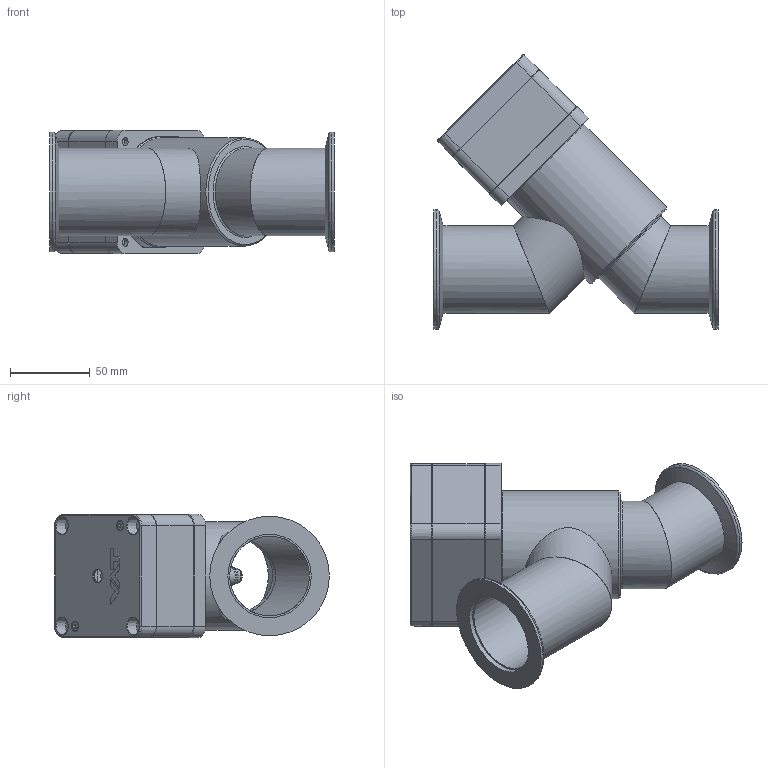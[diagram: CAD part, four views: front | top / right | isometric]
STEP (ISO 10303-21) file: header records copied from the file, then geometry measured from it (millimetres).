
FILE_DESCRIPTION(/* description */ (''),/* implementation_level */ '2;1');
FILE_NAME(/* name */ '1133218048_203.stp',/* time_stamp */ '2021-04-07T08:09:42+02:00',/* author */ (''),/* organization */ (''),/* preprocessor_version */ 'ST-DEVELOPER v16.7',/* originating_system */ 'SIEMENS PLM Software NX 1915',/* authorisation */ '');
FILE_SCHEMA (('AP203_CONFIGURATION_CONTROLLED_3D_DESIGN_OF_MECHANICAL_PARTS_AND_ASSEMBLIES_MIM_LF { 1 0 10303 403 2 1 2}'));
Length unit declared in the file: millimetre
Products named in the file (13): 379203; 252497.8; 379229; 379196; 379192; 245150; 236204_1.1; 224813.1; 245123.5; 245085.3; 379209; 248485.2; 414224
Assembly tree (16 placements, depth 3):
  414224
    245085.3
    245123.5
    248485.2
      236204_1.1  x2
      245150
    379209
      379192
      379196
      379229
      252497.8
      379203
    224813.1  x4
Bounding box: 178 x 172.05 x 77.4 mm (x, y, z)
Volume: 275361.9 mm3; surface area: 179703.1 mm2
Topology: 23 solids, 23 shells, 580 faces, 1412 edges, 909 vertices
Faces by surface type: plane 331, cylinder 115, cone 98, bspline 19, torus 17
Full cylindrical faces by diameter (mm): 1.8 x1, 2.5 x3, 3 x5, 4.134 x1, 4.4 x1, 4.7 x2, 4.96 x4, 5 x9, 5.6 x2, 6 x8, 6.4 x4, 7.4 x1, 8.175 x1, 9.1 x1, 10 x5, 11.975 x3, 12.015 x1, 12.25 x2, 14 x1, 14.009 x1, 16.6 x1, 22.4 x1, 50 x5, 52.2 x2, 55 x4, 63 x1, 63.05 x1, 67.9 x1, 69.45 x1, 70.45 x1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
Entity records: 16957 total; most frequent: CARTESIAN_POINT 3603, DIRECTION 2347, ORIENTED_EDGE 2226, EDGE_CURVE 1113, AXIS2_PLACEMENT_3D 858, VERTEX_POINT 789, EDGE_LOOP 704, LINE 631
